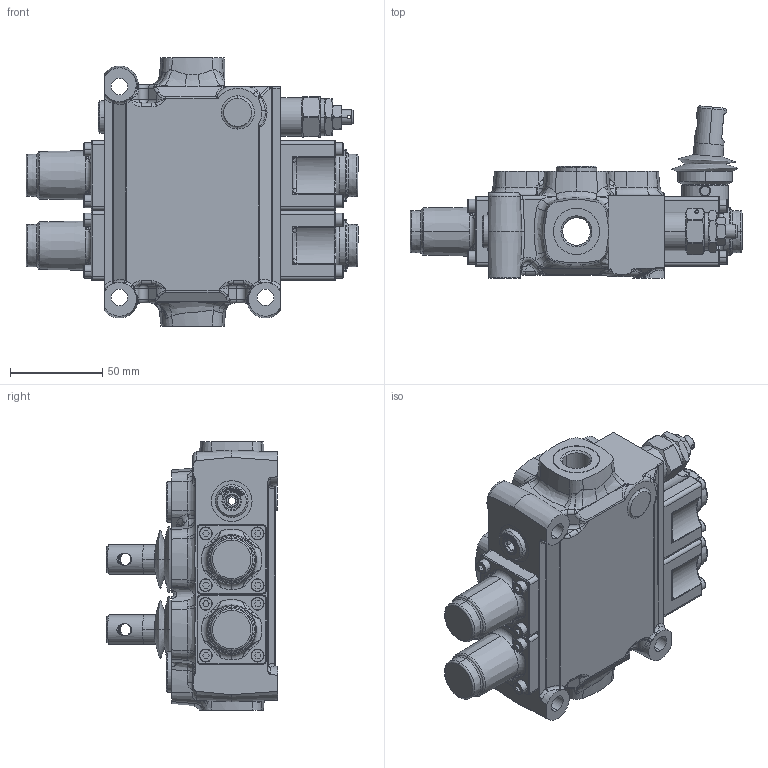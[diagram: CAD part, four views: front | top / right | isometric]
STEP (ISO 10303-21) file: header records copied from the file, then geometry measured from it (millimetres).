
FILE_DESCRIPTION (( 'STEP AP203' ), '1' );
FILE_NAME ('025020103001800.STEP', '2022-07-12T13:30:54', ( '' ), ( '' ), 'SwSTEP 2.0', 'SolidWorks 2021', '' );
FILE_SCHEMA (( 'CONFIG_CONTROL_DESIGN' ));
Length unit declared in the file: millimetre
Products named in the file (1): 025020103001800
Bounding box: 179.5 x 92.94 x 145 mm (x, y, z)
Surface area: 95850.5 mm2 (no closed solid volume)
Topology: 0 solids, 46 shells, 1390 faces, 3947 edges, 2540 vertices
Faces by surface type: plane 367, bspline 319, cylinder 288, torus 228, cone 172, sphere 16
Entity records: 62089 total; most frequent: CARTESIAN_POINT 29081, ORIENTED_EDGE 6965, DIRECTION 6330, EDGE_CURVE 3897, VERTEX_POINT 2540, AXIS2_PLACEMENT_3D 2510, EDGE_LOOP 1518, CIRCLE 1438
